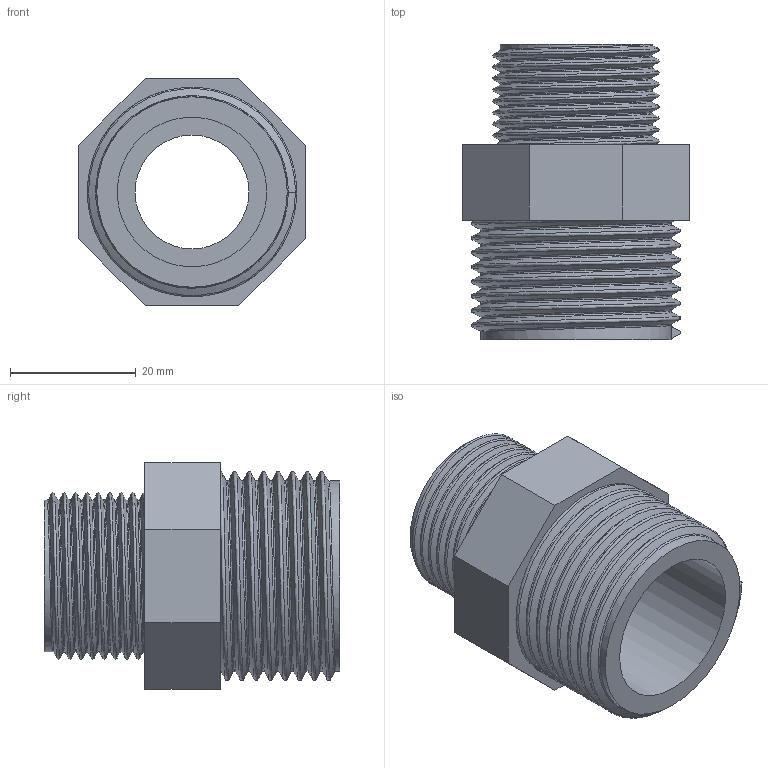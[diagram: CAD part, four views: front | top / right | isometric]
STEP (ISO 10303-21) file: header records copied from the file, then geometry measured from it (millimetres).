
FILE_DESCRIPTION(/* description */ ('PVC nipplo ridotto filettato BSP'),/* implementation_level */ '2;1');
FILE_NAME(/* name */ 'C:\Users\POLYPIPE\Desktop\DATASET INVENTOR\LIBRERIA EFFAST\RACCORDI 3DxWEB\RER\3D_RERNRE\3D_RERNRE032C.stp',/* time_stamp */ '2018-01-19T16:46:26+01:00',/* author */ ('POLYPIPE'),/* organization */ ('Polypipe Italia s.r.l.'),/* preprocessor_version */ 'ST-DEVELOPER v16.1',/* originating_system */ 'Autodesk Inventor 2016',/* authorisation */ '');
FILE_SCHEMA (('CONFIG_CONTROL_DESIGN'));
Length unit declared in the file: millimetre
Products named in the file (1): 3D_RERNRE
Bounding box: 36 x 47 x 36 mm (x, y, z)
Volume: 19098.5 mm3; surface area: 11346.1 mm2
Topology: 1 solids, 1 shells, 29 faces, 66 edges, 42 vertices
Faces by surface type: plane 15, bspline 10, cylinder 4
Full cylindrical faces by diameter (mm): 18.1 x1, 23.8 x1, 24.117 x1, 30.291 x1
Entity records: 7358 total; most frequent: CARTESIAN_POINT 6746, ORIENTED_EDGE 128, DIRECTION 94, EDGE_CURVE 64, VERTEX_POINT 42, EDGE_LOOP 36, AXIS2_PLACEMENT_3D 32, LINE 30
